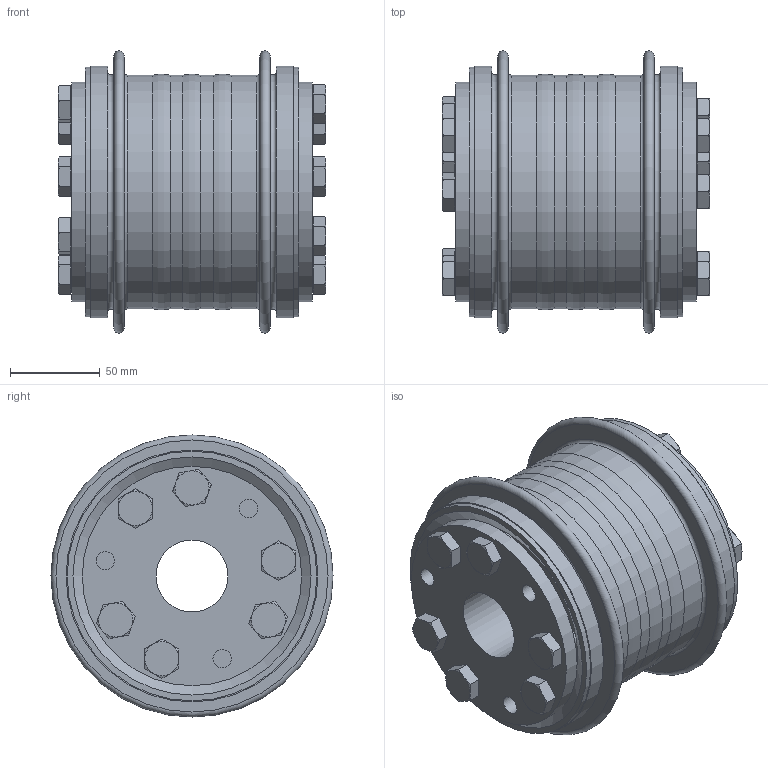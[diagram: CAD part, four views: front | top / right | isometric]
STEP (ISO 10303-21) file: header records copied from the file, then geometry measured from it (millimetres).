
FILE_DESCRIPTION( ( 'Unknown' ), '1' );
FILE_NAME( 'F:/JAKOB-STEP+IGES-Dateien/STEP-Dateien/KSS/KSS 1500.stp', 'Unknown', ( 'Unknown' ), ( 'Unknown' ), 'PSStep 10.1', 'Unknown', ' ' );
FILE_SCHEMA( ( 'AUTOMOTIVE_DESIGN { 1 0 10303 214 1 1 1 1 }' ) );
Length unit declared in the file: millimetre
Products named in the file (1): 20113525
Bounding box: 149 x 157 x 157 mm (x, y, z)
Volume: 1073140.4 mm3; surface area: 282209 mm2
Topology: 1 solids, 1 shells, 326 faces, 766 edges, 498 vertices
Faces by surface type: plane 154, cone 78, cylinder 74, torus 20
Full cylindrical faces by diameter (mm): 10.2 x18, 12 x12, 12.5 x12, 17.2 x12, 40 x2, 79.35 x2, 122 x2, 123 x2, 127.8 x4, 130 x4, 139 x2, 140.2 x2
Entity records: 11664 total; most frequent: CARTESIAN_POINT 2427, DIRECTION 1362, ORIENTED_EDGE 1188, AXIS2_PLACEMENT_3D 609, EDGE_CURVE 594, EDGE_LOOP 520, VERTEX_POINT 426, FACE_OUTER_BOUND 420
